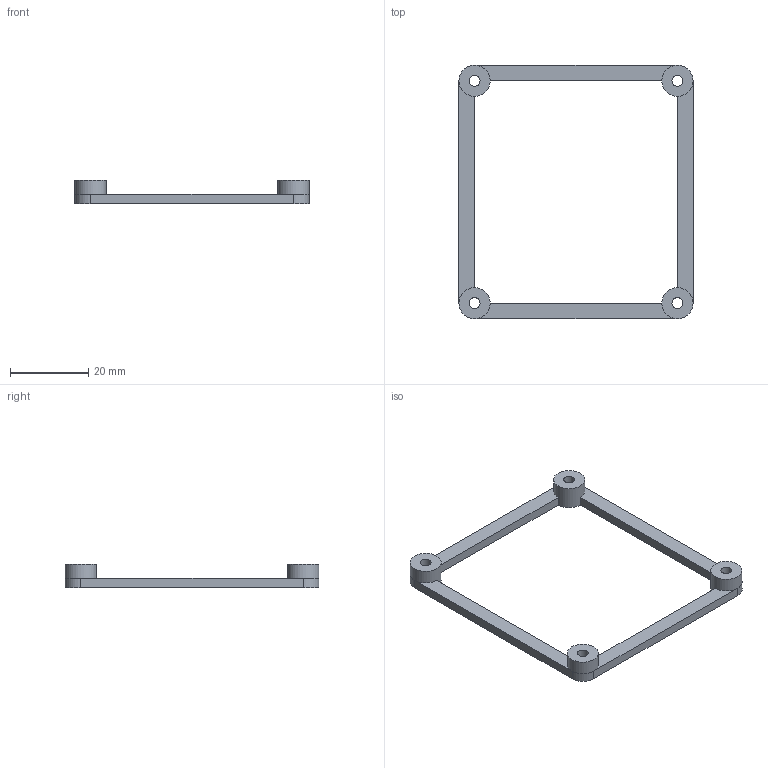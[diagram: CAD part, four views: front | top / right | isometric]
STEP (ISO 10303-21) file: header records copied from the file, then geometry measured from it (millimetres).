
FILE_DESCRIPTION(('Open CASCADE Model'),'2;1');
FILE_NAME('Open CASCADE Shape Model','2026-10-15T01:34:02',('Author'),( 'Open CASCADE'),'Open CASCADE STEP processor 7.8','Open CASCADE 7.8' ,'Unknown');
FILE_SCHEMA(('AUTOMOTIVE_DESIGN { 1 0 10303 214 1 1 1 1 }'));
Length unit declared in the file: millimetre
Products named in the file (1): Open CASCADE STEP translator 7.8 1
Bounding box: 60 x 65 x 6 mm (x, y, z)
Volume: 2759.9 mm3; surface area: 3641.9 mm2
Topology: 1 solids, 1 shells, 61 faces, 156 edges, 100 vertices
Faces by surface type: plane 49, cylinder 12
Full cylindrical faces by diameter (mm): 2.8 x4, 8 x4
Entity records: 3936 total; most frequent: CARTESIAN_POINT 798, DIRECTION 580, LINE 372, VECTOR 372, ORIENTED_EDGE 312, PCURVE 312, DEFINITIONAL_REPRESENTATION 312, EDGE_CURVE 156
